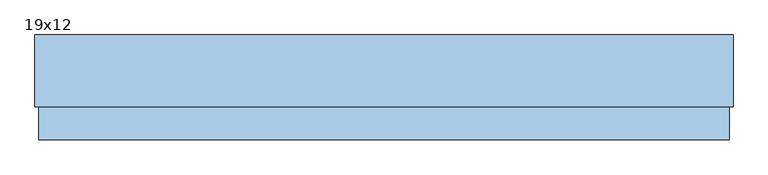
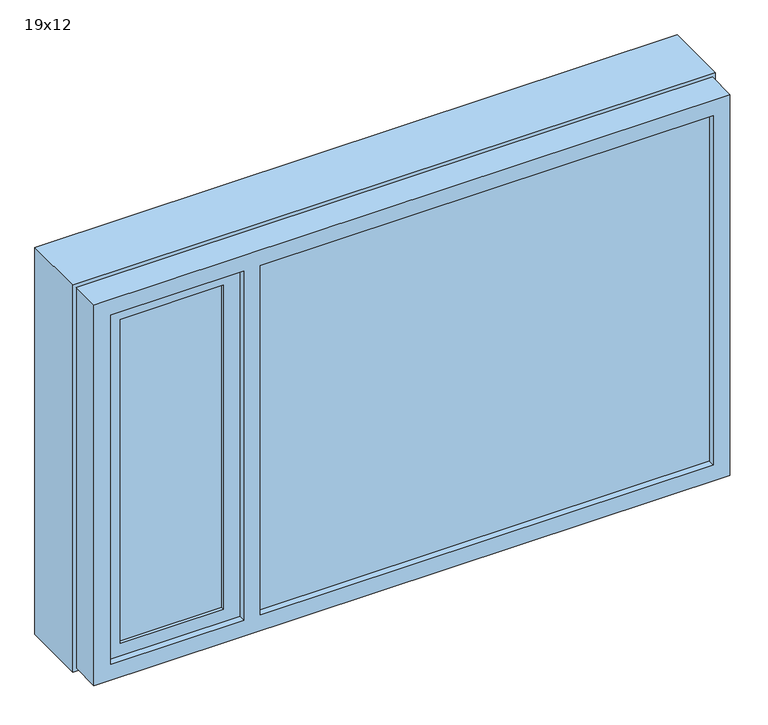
"""IFC4 building model written with IfcOpenShell, lengths in millimetres: window geometry, Vindu 2 felt med åpning side : 19x12."""

from ifc_helpers import new_model, si_unit, frame, origin, place, context, project, spatial, polyline, outline, extrude, source, transform, mapped, element, save


def window_19x12_62268cf3(model_context):
    return source(origin(), model_context, "Body", "SweptSolid", [
        extrude(outline(polyline([(-497.3982693, -95.0), (-497.3982693, -75.0), (862.6017307, -75.0), (862.6017307, -95.0), (-497.3982693, -95.0)])), frame((0.0, 0.0, 860.0), z_axis=(0.0, 0.0, 1.0), x_axis=(1.0, 0.0, 0.0)), (0.0, 0.0, 1.0), 1110.0),
        extrude(outline(polyline([(1970.0, -547.3982693), (1970.0, -947.3982693), (860.0, -947.3982693), (860.0, -547.3982693), (1970.0, -547.3982693)]), holes=[polyline([(900.0, -907.3982693), (1930.0, -907.3982693), (1930.0, -597.3982693), (900.0, -597.3982693), (900.0, -907.3982693)])]), frame((0.0, -95.0, 0.0), z_axis=(0.0, 1.0, 0.0), x_axis=(0.0, 0.0, 1.0)), (0.0, 0.0, 1.0), 40.0),
        extrude(outline(polyline([(800.0, 922.6017307), (2030.0, 922.6017307), (2030.0, -1007.3982693), (800.0, -1007.3982693), (800.0, 922.6017307)]), holes=[polyline([(815.0, 907.6017307), (815.0, -992.3982693), (2015.0, -992.3982693), (2015.0, 907.6017307), (815.0, 907.6017307)])]), frame((0.0, -23.0, 0.0), z_axis=(0.0, 1.0, 0.0), x_axis=(0.0, 0.0, 1.0)), (0.0, 0.0, 1.0), 198.0),
        extrude(outline(polyline([(-907.3982693, -85.0), (-907.3982693, -65.0), (-597.3982693, -65.0), (-597.3982693, -85.0), (-907.3982693, -85.0)])), frame((0.0, 0.0, 900.0), z_axis=(0.0, 0.0, 1.0), x_axis=(1.0, 0.0, 0.0)), (0.0, 0.0, 1.0), 1030.0),
        extrude(outline(polyline([(2020.0, -997.3982693), (810.0, -997.3982693), (810.0, 912.6017307), (2020.0, 912.6017307), (2020.0, -997.3982693)]), holes=[polyline([(1970.0, -547.3982693), (860.0, -547.3982693), (860.0, -947.3982693), (1970.0, -947.3982693), (1970.0, -547.3982693)]), polyline([(1970.0, -497.3982693), (1970.0, 862.6017307), (860.0, 862.6017307), (860.0, -497.3982693), (1970.0, -497.3982693)])]), frame((0.0, -115.0, 0.0), z_axis=(0.0, 1.0, 0.0), x_axis=(0.0, 0.0, 1.0)), (0.0, 0.0, 1.0), 92.0),
    ])


if __name__ == "__main__":
    model = new_model("IFC4")
    model_context = context("Model", 3, world=origin())
    ifc_project = project(units=[si_unit("LENGTHUNIT", "METRE", prefix="MILLI")], contexts=[model_context])
    site = spatial("IfcSite", under=ifc_project)
    building = spatial("IfcBuilding", under=site)
    placement = place(None, origin())
    window_19x12_shape = window_19x12_62268cf3(model_context)
    element("IfcWindow", 1, ObjectType="Vindu 2 felt med åpning side : 19x12", at=placement, inside=building, context=model_context, shape_type="MappedRepresentation", body=[
        mapped(window_19x12_shape, transform((0.0, 0.0, 0.0), x_axis=(1.0, 0.0, 0.0), y_axis=(0.0, 1.0, 0.0), z_axis=(0.0, 0.0, 1.0))),
    ])
    save(model, "model.ifc")
